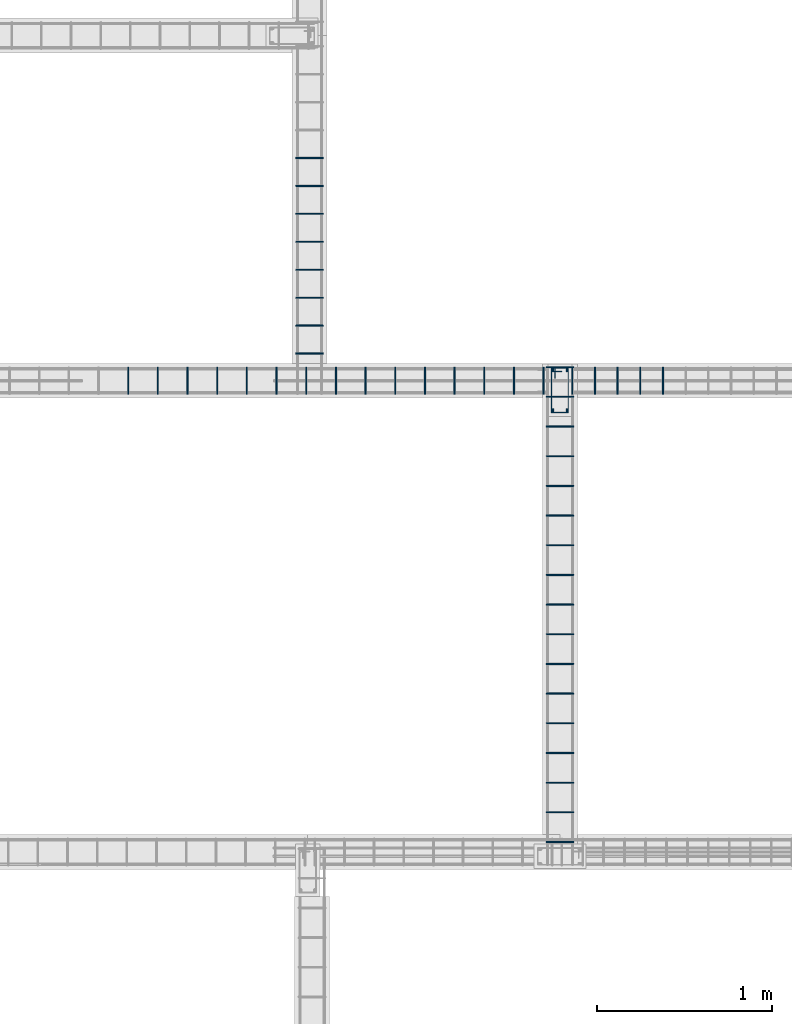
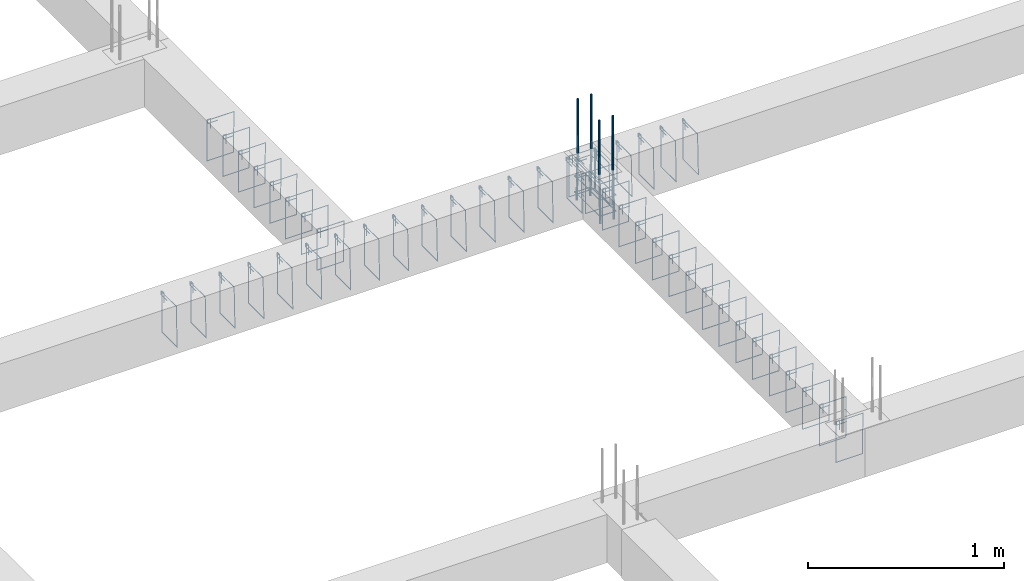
# One storey, part 131 of 150: 52 reinforcing bars.
"""IFC4 building model written with IfcOpenShell, lengths in centimetres."""

import ifcopenshell
import ifcopenshell.guid

model = None  # the IFC model being written
_history = None  # IfcOwnerHistory: only IFC2X3 demands one
_inside = {}  # id of a spatial element -> (the spatial element, [elements in it])
_under = {}  # id of a project, library or spatial element -> (it, [spatial elements below it])
_declared = {}  # id of a project -> (the project, [libraries it declares])
_typed = {}  # id of a type object -> (the type object, [elements of that type])
_made_of = {}  # id of a material, layer set ... -> (it, [elements and type objects made of it])


def new_model(schema):
    """Start an empty IFC model of exactly this schema.

    Asked for "IFC4X3", IfcOpenShell would pick the latest addendum, in which some entities
    have other attributes; the version numbers below select the first issue.
    IFC2X3 requires an IfcOwnerHistory on every rooted entity: one is made here for all.
    """
    global model, _history
    if schema == "IFC4X3":
        model = ifcopenshell.file(schema_version=(4, 3, 0, 0))
    else:
        model = ifcopenshell.file(schema=schema)
    _inside.clear()
    _under.clear()
    _declared.clear()
    _typed.clear()
    _made_of.clear()
    _history = None
    if model.schema == "IFC2X3":
        org = make("IfcOrganization", Name="unknown")
        user = make(
            "IfcPersonAndOrganization",
            ThePerson=make("IfcPerson", FamilyName="unknown"),
            TheOrganization=org,
        )
        app = make(
            "IfcApplication",
            ApplicationDeveloper=org,
            Version="unknown",
            ApplicationFullName="unknown",
            ApplicationIdentifier="unknown",
        )
        _history = make(
            "IfcOwnerHistory",
            OwningUser=user,
            OwningApplication=app,
            ChangeAction="ADDED",
            CreationDate=0,
        )
    return model


def make(cls, **values):
    """One entity of the class cls with the attributes given. An attribute that is None is left unset."""
    return model.create_entity(
        cls, **{name: value for name, value in values.items() if value is not None}
    )


def entity(cls, *values):
    """Any entity or typed value of the class cls, its attributes in the order of the schema. None: left unset."""
    e = model.create_entity(cls)
    for i, value in enumerate(values):
        if value is not None:
            e[i] = value
    return e


def rooted(cls, **values):
    """An entity with a GlobalId (a new one), such as an element, a storey or a relation."""
    return make(cls, GlobalId=ifcopenshell.guid.new(), OwnerHistory=_history, **values)


def si_unit(unit_type, name, prefix=None):
    """IfcSIUnit, for example si_unit("LENGTHUNIT", "METRE", prefix="MILLI")."""
    return make("IfcSIUnit", UnitType=unit_type, Prefix=prefix, Name=name)


def derived_unit(unit_type, elements):
    """IfcDerivedUnit: a product of units, each with its exponent."""
    return make(
        "IfcDerivedUnit",
        Elements=[
            make("IfcDerivedUnitElement", Unit=unit, Exponent=power)
            for unit, power in elements
        ],
        UnitType=unit_type,
    )


def assignment(units):
    """IfcUnitAssignment: the units of a project."""
    return None if units is None else make("IfcUnitAssignment", Units=units)


def point(xyz):
    """IfcCartesianPoint."""
    return None if xyz is None else make("IfcCartesianPoint", Coordinates=xyz)


def direction(xyz):
    """IfcDirection."""
    return None if xyz is None else make("IfcDirection", DirectionRatios=xyz)


def frame(location, z_axis=None, x_axis=None):
    """IfcAxis2Placement3D, a coordinate frame: its origin and axes. An axis left out is left unset."""
    return make(
        "IfcAxis2Placement3D",
        Location=point(location),
        Axis=direction(z_axis),
        RefDirection=direction(x_axis),
    )


def origin_with_axes():
    """The frame at (0, 0, 0) with the z axis (0, 0, 1) and the x axis (1, 0, 0) written out."""
    return frame((0.0, 0.0, 0.0), z_axis=(0.0, 0.0, 1.0), x_axis=(1.0, 0.0, 0.0))


def place(relative_to, where):
    """IfcLocalPlacement: puts the frame where relative to a parent placement (None: the world)."""
    return make(
        "IfcLocalPlacement", PlacementRelTo=relative_to, RelativePlacement=where
    )


def context(
    kind, dimensions, precision=None, world=None, true_north=None, identifier=None
):
    """IfcGeometricRepresentationContext, for example the 3D "Model" context."""
    return make(
        "IfcGeometricRepresentationContext",
        ContextIdentifier=identifier,
        ContextType=kind,
        CoordinateSpaceDimension=dimensions,
        Precision=precision,
        WorldCoordinateSystem=world,
        TrueNorth=true_north,
    )


def project(units=None, contexts=None):
    """IfcProject with its units and contexts."""
    return rooted(
        "IfcProject",
        Name="project",
        RepresentationContexts=contexts,
        UnitsInContext=assignment(units),
    )


def spatial(cls, under=None, at=None, **own):
    """A site, building, storey or space (cls), placed at a placement, below another one or the project."""
    s = rooted(cls, ObjectPlacement=at, **own)
    if under is not None:
        _under.setdefault(under.id(), (under, []))[1].append(s)
    return s


def shape(context_of_items, identifier, shape_type, items):
    """IfcShapeRepresentation: the items that make up one representation, for example the "Body"."""
    return make(
        "IfcShapeRepresentation",
        ContextOfItems=context_of_items,
        RepresentationIdentifier=identifier,
        RepresentationType=shape_type,
        Items=items,
    )


def source(mapping_origin, context_of_items, identifier, shape_type, items):
    """IfcRepresentationMap: a shape defined once, which mapped items show again and again."""
    return make(
        "IfcRepresentationMap",
        MappingOrigin=mapping_origin,
        MappedRepresentation=shape(context_of_items, identifier, shape_type, items),
    )


def transform(
    local_origin,
    x_axis=None,
    y_axis=None,
    z_axis=None,
    scale=None,
    scale2=None,
    scale3=None,
    uniform=True,
):
    """IfcCartesianTransformationOperator3D, or its non-uniform kind. x_axis, y_axis, z_axis: its Axis1, 2, 3."""
    if uniform:
        return make(
            "IfcCartesianTransformationOperator3D",
            Axis1=direction(x_axis),
            Axis2=direction(y_axis),
            LocalOrigin=point(local_origin),
            Scale=scale,
            Axis3=direction(z_axis),
        )
    return make(
        "IfcCartesianTransformationOperator3DnonUniform",
        Axis1=direction(x_axis),
        Axis2=direction(y_axis),
        LocalOrigin=point(local_origin),
        Scale=scale,
        Axis3=direction(z_axis),
        Scale2=scale2,
        Scale3=scale3,
    )


def mapped(mapping_source, mapping_target):
    """IfcMappedItem: shows the shape of a source again, moved by a transform."""
    return make(
        "IfcMappedItem", MappingSource=mapping_source, MappingTarget=mapping_target
    )


def made_of(thing, what):
    """Note that an element or type object is made of a material, layer set ...; save() writes the relation."""
    if what is not None:
        _made_of.setdefault(what.id(), (what, []))[1].append(thing)
    return thing


def element(
    cls,
    number,
    at=None,
    inside=None,
    cuts=None,
    type_object=None,
    material=None,
    context=None,
    identifier="Body",
    shape_type=None,
    held_by="IfcProductDefinitionShape",
    body=None,
    shapes=None,
    **own,
):
    """One element of the class cls, such as IfcWall. Its Tag is "e" and its number.

    at: its placement. inside: the storey or other place that contains it. cuts: it is an
    opening in that element (IfcRelVoidsElement). A single representation is given by context,
    identifier, shape_type and body (its items); several are given by shapes. held_by: the class
    of the entity that holds the representations. save() writes the other relations.
    """
    e = rooted(cls, Tag="e%d" % number, ObjectPlacement=at, **own)
    if body is not None:
        shapes = [shape(context, identifier, shape_type, body)]
    if shapes is not None:
        e.Representation = make(held_by, Representations=shapes)
    if inside is not None:
        _inside.setdefault(inside.id(), (inside, []))[1].append(e)
    if cuts is not None:
        rooted(
            "IfcRelVoidsElement", RelatingBuildingElement=cuts, RelatedOpeningElement=e
        )
    if type_object is not None:
        _typed.setdefault(type_object.id(), (type_object, []))[1].append(e)
    return made_of(e, material)


def aggregate(whole, parts):
    """IfcRelAggregates: a whole, such as a stair, and the parts it consists of."""
    return rooted("IfcRelAggregates", RelatingObject=whole, RelatedObjects=parts)


def save(model, path):
    """Write the relations noted so far, then the file.

    IfcRelAggregates (storeys below a building ...), IfcRelContainedInSpatialStructure (elements
    in a storey), IfcRelDefinesByType, IfcRelAssociatesMaterial and IfcRelDeclares: one each for
    every whole, place, type object, material and project.
    """
    for whole, parts in _under.values():
        aggregate(whole, parts)
    for where, things in _inside.values():
        rooted(
            "IfcRelContainedInSpatialStructure",
            RelatedElements=things,
            RelatingStructure=where,
        )
    for kind, things in _typed.values():
        rooted("IfcRelDefinesByType", RelatedObjects=things, RelatingType=kind)
    for what, things in _made_of.values():
        rooted("IfcRelAssociatesMaterial", RelatedObjects=things, RelatingMaterial=what)
    for by, libraries in _declared.values():
        rooted("IfcRelDeclares", RelatingContext=by, RelatedDefinitions=libraries)
    model.write(path)


model = new_model("IFC4")

# Units and contexts
model_context = context("Model", 3, precision=1e-05, world=origin_with_axes(), identifier="Body")
ifc_project = project(units=[si_unit("LENGTHUNIT", "METRE", prefix="CENTI"), si_unit("VOLUMEUNIT", "CUBIC_METRE"), si_unit("AREAUNIT", "SQUARE_METRE"), si_unit("POWERUNIT", "WATT"), si_unit("LUMINOUSFLUXUNIT", "LUMEN"), si_unit("ELECTRICCURRENTUNIT", "AMPERE"), si_unit("PRESSUREUNIT", "PASCAL", prefix="KILO"), si_unit("MASSUNIT", "GRAM", prefix="KILO"), si_unit("PLANEANGLEUNIT", "RADIAN"), derived_unit("VOLUMETRICFLOWRATEUNIT", [(si_unit("LENGTHUNIT", "METRE"), 3), (si_unit("TIMEUNIT", "SECOND"), -1)])], contexts=[model_context])

# Site, building, storey
site_placement = place(None, frame((-4000.0, 0.0, 0.0), z_axis=(0.0, 0.0, 1.0), x_axis=(1.0, 0.0, 0.0)))
site = spatial("IfcSite", under=ifc_project, at=site_placement, Name="PADRÃO")
building_placement = place(site_placement, frame((0.0, 0.0, -14.0)))
building = spatial("IfcBuilding", under=site, at=building_placement, Name="CRECHE PRÉ-ESCOLA TIPO 2")
placement = place(building_placement, origin_with_axes())
storey_placement = place(placement, frame((0.0, 0.0, 30.0), z_axis=(0.0, 0.0, 1.0), x_axis=(1.0, 0.0, 0.0)))
storey = spatial("IfcBuildingStorey", under=building, at=storey_placement, Name="VIGA BALDRAME", CompositionType="ELEMENT", Elevation=16.0)

# Reinforcing bars
shared_shape_1 = source(origin_with_axes(), model_context, "Body", "AdvancedSweptSolid", [
    entity("IfcSweptDiskSolid", entity("IfcCompositeCurve", [entity("IfcCompositeCurveSegment", "CONTINUOUS", True, entity("IfcPolyline", [entity("IfcCartesianPoint", [4.25, 21.75, 0.0]), entity("IfcCartesianPoint", [4.25, 27.75, 0.0])])), entity("IfcCompositeCurveSegment", "CONTINUOUS", True, entity("IfcPolyline", [entity("IfcCartesianPoint", [4.25, 27.75, 0.0]), entity("IfcCartesianPoint", [2.25, 27.75, 0.0])])), entity("IfcCompositeCurveSegment", "CONTINUOUS", True, entity("IfcPolyline", [entity("IfcCartesianPoint", [2.25, 27.75, 0.0]), entity("IfcCartesianPoint", [2.25, 2.25, 0.0])])), entity("IfcCompositeCurveSegment", "CONTINUOUS", True, entity("IfcPolyline", [entity("IfcCartesianPoint", [2.25, 2.25, 0.0]), entity("IfcCartesianPoint", [11.75, 2.25, 0.0])])), entity("IfcCompositeCurveSegment", "CONTINUOUS", True, entity("IfcPolyline", [entity("IfcCartesianPoint", [11.75, 2.25, 0.0]), entity("IfcCartesianPoint", [11.75, 27.75, -0.5])])), entity("IfcCompositeCurveSegment", "CONTINUOUS", True, entity("IfcPolyline", [entity("IfcCartesianPoint", [11.75, 27.75, -0.5]), entity("IfcCartesianPoint", [2.25, 27.75, -0.5])])), entity("IfcCompositeCurveSegment", "CONTINUOUS", True, entity("IfcPolyline", [entity("IfcCartesianPoint", [2.25, 27.75, -0.5]), entity("IfcCartesianPoint", [2.25, 25.75, -0.5])])), entity("IfcCompositeCurveSegment", "CONTINUOUS", True, entity("IfcPolyline", [entity("IfcCartesianPoint", [2.25, 25.75, -0.5]), entity("IfcCartesianPoint", [8.25, 25.75, -0.5])]))], False), 0.25),
])
for number, where, z_axis, x_axis, name in (
    (1, (2661.0, 3449.58, -5.0), (0.0, 0.0, 1.0), (1.0, 0.0, 0.0), "P43 - Estribo"),
    (2, (2661.0, 3449.58, -15.0), (0.0, 0.0, 1.0), (1.0, 0.0, 0.0), "P43 - Estribo"),
    (3, (2661.0, 3449.58, -25.0), (0.0, 0.0, 1.0), (1.0, 0.0, 0.0), "P43 - Estribo"),
):
    element("IfcReinforcingBar", number, at=place(storey_placement, frame(where, z_axis=z_axis, x_axis=x_axis)), inside=storey, Name=name, BarLength=0.0, CrossSectionArea=1.9634954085e-05, NominalDiameter=0.5, PredefinedType="MAIN", context=model_context, shape_type="MappedRepresentation", body=[
        mapped(shared_shape_1, transform((0.0, 0.0, 0.0), scale=1.0)),
    ])
shared_shape_2 = source(origin_with_axes(), model_context, "Body", "AdvancedSweptSolid", [
    entity("IfcSweptDiskSolid", entity("IfcCompositeCurve", [entity("IfcCompositeCurveSegment", "CONTINUOUS", True, entity("IfcPolyline", [entity("IfcCartesianPoint", [2.0, -6.0, 0.0]), entity("IfcCartesianPoint", [2.0, 0.0, 0.0])])), entity("IfcCompositeCurveSegment", "CONTINUOUS", True, entity("IfcPolyline", [entity("IfcCartesianPoint", [2.0, 0.0, 0.0]), entity("IfcCartesianPoint", [0.0, 0.0, 0.0])])), entity("IfcCompositeCurveSegment", "CONTINUOUS", True, entity("IfcPolyline", [entity("IfcCartesianPoint", [0.0, 0.0, 0.0]), entity("IfcCartesianPoint", [0.0, -25.5, 0.0])])), entity("IfcCompositeCurveSegment", "CONTINUOUS", True, entity("IfcPolyline", [entity("IfcCartesianPoint", [0.0, -25.5, 0.0]), entity("IfcCartesianPoint", [15.5, -25.5, 0.0])])), entity("IfcCompositeCurveSegment", "CONTINUOUS", True, entity("IfcPolyline", [entity("IfcCartesianPoint", [15.5, -25.5, 0.0]), entity("IfcCartesianPoint", [15.5, 0.0, 0.5])])), entity("IfcCompositeCurveSegment", "CONTINUOUS", True, entity("IfcPolyline", [entity("IfcCartesianPoint", [15.5, 0.0, 0.5]), entity("IfcCartesianPoint", [0.0, 0.0, 0.5])])), entity("IfcCompositeCurveSegment", "CONTINUOUS", True, entity("IfcPolyline", [entity("IfcCartesianPoint", [0.0, 0.0, 0.5]), entity("IfcCartesianPoint", [0.0, -2.0, 0.5])])), entity("IfcCompositeCurveSegment", "CONTINUOUS", True, entity("IfcPolyline", [entity("IfcCartesianPoint", [0.0, -2.0, 0.5]), entity("IfcCartesianPoint", [6.0, -2.0, 0.5])]))], False), 0.25),
])
for number, where, z_axis, x_axis, name in (
    (4, (2420.88, 3477.77, -2.25), (-1.0, 0.0, 0.0), (0.0, -1.0, 0.0), "V111 - Estribo"),
    (5, (2437.88, 3477.77, -2.25), (-1.0, 0.0, 0.0), (0.0, -1.0, 0.0), "V111 - Estribo"),
    (6, (2454.88, 3477.77, -2.25), (-1.0, 0.0, 0.0), (0.0, -1.0, 0.0), "V111 - Estribo"),
    (7, (2471.88, 3477.77, -2.25), (-1.0, 0.0, 0.0), (0.0, -1.0, 0.0), "V111 - Estribo"),
    (8, (2488.88, 3477.77, -2.25), (-1.0, 0.0, 0.0), (0.0, -1.0, 0.0), "V111 - Estribo"),
    (9, (2505.88, 3477.77, -2.25), (-1.0, 0.0, 0.0), (0.0, -1.0, 0.0), "V111 - Estribo"),
    (10, (2522.88, 3477.77, -2.25), (-1.0, 0.0, 0.0), (0.0, -1.0, 0.0), "V111 - Estribo"),
    (11, (2539.88, 3477.77, -2.25), (-1.0, 0.0, 0.0), (0.0, -1.0, 0.0), "V111 - Estribo"),
    (12, (2556.88, 3477.77, -2.25), (-1.0, 0.0, 0.0), (0.0, -1.0, 0.0), "V111 - Estribo"),
    (13, (2573.88, 3477.77, -2.25), (-1.0, 0.0, 0.0), (0.0, -1.0, 0.0), "V111 - Estribo"),
    (14, (2590.88, 3477.77, -2.25), (-1.0, 0.0, 0.0), (0.0, -1.0, 0.0), "V111 - Estribo"),
    (15, (2607.88, 3477.77, -2.25), (-1.0, 0.0, 0.0), (0.0, -1.0, 0.0), "V111 - Estribo"),
    (16, (2624.88, 3477.77, -2.25), (-1.0, 0.0, 0.0), (0.0, -1.0, 0.0), "V111 - Estribo"),
    (17, (2641.88, 3477.77, -2.25), (-1.0, 0.0, 0.0), (0.0, -1.0, 0.0), "V111 - Estribo"),
    (18, (2658.88, 3477.77, -2.25), (-1.0, 0.0, 0.0), (0.0, -1.0, 0.0), "V111 - Estribo"),
):
    element("IfcReinforcingBar", number, at=place(storey_placement, frame(where, z_axis=z_axis, x_axis=x_axis)), inside=storey, Name=name, BarLength=0.0, CrossSectionArea=1.9634954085e-05, NominalDiameter=0.5, PredefinedType="MAIN", context=model_context, shape_type="MappedRepresentation", body=[
        mapped(shared_shape_2, transform((0.0, 0.0, 0.0), scale=1.0)),
    ])
shared_shape_3 = source(origin_with_axes(), model_context, "Body", "AdvancedSweptSolid", [
    entity("IfcSweptDiskSolid", entity("IfcCompositeCurve", [entity("IfcCompositeCurveSegment", "CONTINUOUS", True, entity("IfcPolyline", [entity("IfcCartesianPoint", [2.0, -6.0, 0.0]), entity("IfcCartesianPoint", [2.0, 0.0, 0.0])])), entity("IfcCompositeCurveSegment", "CONTINUOUS", True, entity("IfcPolyline", [entity("IfcCartesianPoint", [2.0, 0.0, 0.0]), entity("IfcCartesianPoint", [0.0, 0.0, 0.0])])), entity("IfcCompositeCurveSegment", "CONTINUOUS", True, entity("IfcPolyline", [entity("IfcCartesianPoint", [0.0, 0.0, 0.0]), entity("IfcCartesianPoint", [0.0, -25.5, 0.0])])), entity("IfcCompositeCurveSegment", "CONTINUOUS", True, entity("IfcPolyline", [entity("IfcCartesianPoint", [0.0, -25.5, 0.0]), entity("IfcCartesianPoint", [15.5, -25.5, 0.0])])), entity("IfcCompositeCurveSegment", "CONTINUOUS", True, entity("IfcPolyline", [entity("IfcCartesianPoint", [15.5, -25.5, 0.0]), entity("IfcCartesianPoint", [15.5, 0.0, 0.5])])), entity("IfcCompositeCurveSegment", "CONTINUOUS", True, entity("IfcPolyline", [entity("IfcCartesianPoint", [15.5, 0.0, 0.5]), entity("IfcCartesianPoint", [0.0, 0.0, 0.5])])), entity("IfcCompositeCurveSegment", "CONTINUOUS", True, entity("IfcPolyline", [entity("IfcCartesianPoint", [0.0, 0.0, 0.5]), entity("IfcCartesianPoint", [0.0, -2.0, 0.5])])), entity("IfcCompositeCurveSegment", "CONTINUOUS", True, entity("IfcPolyline", [entity("IfcCartesianPoint", [0.0, -2.0, 0.5]), entity("IfcCartesianPoint", [6.0, -2.0, 0.5])]))], False), 0.25),
])
for number, where, z_axis, x_axis, name in (
    (19, (2675.25016168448, 3477.76999480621, -2.25), (-1.0, 2.0768434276e-05, 0.0), (-2.0768434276e-05, -1.0, 0.0), "V111 - Estribo"),
    (20, (2688.25016168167, 3477.76972481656, -2.25), (-1.0, 2.0768434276e-05, 0.0), (-2.0768434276e-05, -1.0, 0.0), "V111 - Estribo"),
    (21, (2701.25016167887, 3477.76945482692, -2.25), (-1.0, 2.0768434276e-05, 0.0), (-2.0768434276e-05, -1.0, 0.0), "V111 - Estribo"),
    (22, (2714.25016167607, 3477.76918483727, -2.25), (-1.0, 2.0768434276e-05, 0.0), (-2.0768434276e-05, -1.0, 0.0), "V111 - Estribo"),
    (23, (2727.25016167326, 3477.76891484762, -2.25), (-1.0, 2.0768434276e-05, 0.0), (-2.0768434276e-05, -1.0, 0.0), "V111 - Estribo"),
):
    element("IfcReinforcingBar", number, at=place(storey_placement, frame(where, z_axis=z_axis, x_axis=x_axis)), inside=storey, Name=name, BarLength=0.0, CrossSectionArea=1.9634954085e-05, NominalDiameter=0.5, PredefinedType="MAIN", context=model_context, shape_type="MappedRepresentation", body=[
        mapped(shared_shape_3, transform((0.0, 0.0, 0.0), scale=1.0)),
    ])
shared_shape_4 = source(origin_with_axes(), model_context, "Body", "AdvancedSweptSolid", [
    entity("IfcSweptDiskSolid", entity("IfcCompositeCurve", [entity("IfcCompositeCurveSegment", "CONTINUOUS", True, entity("IfcPolyline", [entity("IfcCartesianPoint", [2.0, -6.0, 0.0]), entity("IfcCartesianPoint", [2.0, 0.0, 0.0])])), entity("IfcCompositeCurveSegment", "CONTINUOUS", True, entity("IfcPolyline", [entity("IfcCartesianPoint", [2.0, 0.0, 0.0]), entity("IfcCartesianPoint", [0.0, 0.0, 0.0])])), entity("IfcCompositeCurveSegment", "CONTINUOUS", True, entity("IfcPolyline", [entity("IfcCartesianPoint", [0.0, 0.0, 0.0]), entity("IfcCartesianPoint", [0.0, -25.5, 0.0])])), entity("IfcCompositeCurveSegment", "CONTINUOUS", True, entity("IfcPolyline", [entity("IfcCartesianPoint", [0.0, -25.5, 0.0]), entity("IfcCartesianPoint", [15.5, -25.5, 0.0])])), entity("IfcCompositeCurveSegment", "CONTINUOUS", True, entity("IfcPolyline", [entity("IfcCartesianPoint", [15.5, -25.5, 0.0]), entity("IfcCartesianPoint", [15.5, 0.0, 0.5])])), entity("IfcCompositeCurveSegment", "CONTINUOUS", True, entity("IfcPolyline", [entity("IfcCartesianPoint", [15.5, 0.0, 0.5]), entity("IfcCartesianPoint", [0.0, 0.0, 0.5])])), entity("IfcCompositeCurveSegment", "CONTINUOUS", True, entity("IfcPolyline", [entity("IfcCartesianPoint", [0.0, 0.0, 0.5]), entity("IfcCartesianPoint", [0.0, -2.0, 0.5])])), entity("IfcCompositeCurveSegment", "CONTINUOUS", True, entity("IfcPolyline", [entity("IfcCartesianPoint", [0.0, -2.0, 0.5]), entity("IfcCartesianPoint", [6.0, -2.0, 0.5])]))], False), 0.25),
])
for number, where, z_axis, x_axis, name in (
    (24, (2516.78, 3597.885, -2.25), (0.0, -1.0, 0.0), (1.0, 0.0, 0.0), "V199 - Estribo"),
    (25, (2516.78, 3581.885, -2.25), (0.0, -1.0, 0.0), (1.0, 0.0, 0.0), "V199 - Estribo"),
    (26, (2516.78, 3565.885, -2.25), (0.0, -1.0, 0.0), (1.0, 0.0, 0.0), "V199 - Estribo"),
    (27, (2516.78, 3549.885, -2.25), (0.0, -1.0, 0.0), (1.0, 0.0, 0.0), "V199 - Estribo"),
    (28, (2516.78, 3533.885, -2.25), (0.0, -1.0, 0.0), (1.0, 0.0, 0.0), "V199 - Estribo"),
    (29, (2516.78, 3517.885, -2.25), (0.0, -1.0, 0.0), (1.0, 0.0, 0.0), "V199 - Estribo"),
    (30, (2516.78, 3501.885, -2.25), (0.0, -1.0, 0.0), (1.0, 0.0, 0.0), "V199 - Estribo"),
    (31, (2516.78, 3485.885, -2.25), (0.0, -1.0, 0.0), (1.0, 0.0, 0.0), "V199 - Estribo"),
):
    element("IfcReinforcingBar", number, at=place(storey_placement, frame(where, z_axis=z_axis, x_axis=x_axis)), inside=storey, Name=name, BarLength=0.0, CrossSectionArea=1.9634954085e-05, NominalDiameter=0.5, PredefinedType="MAIN", context=model_context, shape_type="MappedRepresentation", body=[
        mapped(shared_shape_4, transform((0.0, 0.0, 0.0), scale=1.0)),
    ])
shared_shape_5 = source(origin_with_axes(), model_context, "Body", "AdvancedSweptSolid", [
    entity("IfcSweptDiskSolid", entity("IfcCompositeCurve", [entity("IfcCompositeCurveSegment", "CONTINUOUS", True, entity("IfcPolyline", [entity("IfcCartesianPoint", [2.0, -6.0, 0.0]), entity("IfcCartesianPoint", [2.0, 0.0, 0.0])])), entity("IfcCompositeCurveSegment", "CONTINUOUS", True, entity("IfcPolyline", [entity("IfcCartesianPoint", [2.0, 0.0, 0.0]), entity("IfcCartesianPoint", [0.0, 0.0, 0.0])])), entity("IfcCompositeCurveSegment", "CONTINUOUS", True, entity("IfcPolyline", [entity("IfcCartesianPoint", [0.0, 0.0, 0.0]), entity("IfcCartesianPoint", [0.0, -25.5, 0.0])])), entity("IfcCompositeCurveSegment", "CONTINUOUS", True, entity("IfcPolyline", [entity("IfcCartesianPoint", [0.0, -25.5, 0.0]), entity("IfcCartesianPoint", [15.5, -25.5, 0.0])])), entity("IfcCompositeCurveSegment", "CONTINUOUS", True, entity("IfcPolyline", [entity("IfcCartesianPoint", [15.5, -25.5, 0.0]), entity("IfcCartesianPoint", [15.5, 0.0, 0.5])])), entity("IfcCompositeCurveSegment", "CONTINUOUS", True, entity("IfcPolyline", [entity("IfcCartesianPoint", [15.5, 0.0, 0.5]), entity("IfcCartesianPoint", [0.0, 0.0, 0.5])])), entity("IfcCompositeCurveSegment", "CONTINUOUS", True, entity("IfcPolyline", [entity("IfcCartesianPoint", [0.0, 0.0, 0.5]), entity("IfcCartesianPoint", [0.0, -2.0, 0.5])])), entity("IfcCompositeCurveSegment", "CONTINUOUS", True, entity("IfcPolyline", [entity("IfcCartesianPoint", [0.0, -2.0, 0.5]), entity("IfcCartesianPoint", [6.0, -2.0, 0.5])]))], False), 0.25),
])
for number, where, z_axis, x_axis, name in (
    (32, (2660.25, 3206.05, -2.25), (0.0, -1.0, 0.0), (1.0, 0.0, 0.0), "V202 - Estribo"),
    (33, (2660.25, 3342.05, -2.25), (0.0, -1.0, 0.0), (1.0, 0.0, 0.0), "V202 - Estribo"),
    (34, (2660.25, 3325.05, -2.25), (0.0, -1.0, 0.0), (1.0, 0.0, 0.0), "V202 - Estribo"),
    (35, (2660.25, 3308.05, -2.25), (0.0, -1.0, 0.0), (1.0, 0.0, 0.0), "V202 - Estribo"),
    (36, (2660.25, 3291.05, -2.25), (0.0, -1.0, 0.0), (1.0, 0.0, 0.0), "V202 - Estribo"),
    (37, (2660.25, 3223.05, -2.25), (0.0, -1.0, 0.0), (1.0, 0.0, 0.0), "V202 - Estribo"),
    (38, (2660.25, 3240.05, -2.25), (0.0, -1.0, 0.0), (1.0, 0.0, 0.0), "V202 - Estribo"),
    (39, (2660.25, 3257.05, -2.25), (0.0, -1.0, 0.0), (1.0, 0.0, 0.0), "V202 - Estribo"),
    (40, (2660.25, 3274.05, -2.25), (0.0, -1.0, 0.0), (1.0, 0.0, 0.0), "V202 - Estribo"),
    (41, (2660.25, 3393.05, -2.25), (0.0, -1.0, 0.0), (1.0, 0.0, 0.0), "V202 - Estribo"),
    (42, (2660.25, 3376.05, -2.25), (0.0, -1.0, 0.0), (1.0, 0.0, 0.0), "V202 - Estribo"),
    (43, (2660.25, 3359.05, -2.25), (0.0, -1.0, 0.0), (1.0, 0.0, 0.0), "V202 - Estribo"),
    (44, (2660.25, 3410.05, -2.25), (0.0, -1.0, 0.0), (1.0, 0.0, 0.0), "V202 - Estribo"),
    (45, (2660.25, 3427.05, -2.25), (0.0, -1.0, 0.0), (1.0, 0.0, 0.0), "V202 - Estribo"),
    (46, (2660.25, 3444.05, -2.25), (0.0, -1.0, 0.0), (1.0, 0.0, 0.0), "V202 - Estribo"),
    (47, (2660.25, 3461.05, -2.25), (0.0, -1.0, 0.0), (1.0, 0.0, 0.0), "V202 - Estribo"),
    (48, (2660.25, 3478.05, -2.25), (0.0, -1.0, 0.0), (1.0, 0.0, 0.0), "V202 - Estribo"),
):
    element("IfcReinforcingBar", number, at=place(storey_placement, frame(where, z_axis=z_axis, x_axis=x_axis)), inside=storey, Name=name, BarLength=0.0, CrossSectionArea=1.9634954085e-05, NominalDiameter=0.5, PredefinedType="MAIN", context=model_context, shape_type="MappedRepresentation", body=[
        mapped(shared_shape_5, transform((0.0, 0.0, 0.0), scale=1.0)),
    ])
reinforcing_bar_1_placement = place(storey_placement, frame((2664.0, 3453.08013877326, 33.3573001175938), z_axis=(0.0, 0.0, 1.0), x_axis=(1.0, 0.0, 0.0)))
element("IfcReinforcingBar", 49, at=reinforcing_bar_1_placement, inside=storey, Name="P43 - Longitudinal", BarLength=0.0, CrossSectionArea=7.853981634e-05, NominalDiameter=1.0, PredefinedType="MAIN", context=model_context, shape_type="AdvancedSweptSolid", body=[
    entity("IfcSweptDiskSolid", entity("IfcCompositeCurve", [entity("IfcCompositeCurveSegment", "CONTINUOUS", True, entity("IfcPolyline", [entity("IfcCartesianPoint", [0.0, -0.500138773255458, -63.3573001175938]), entity("IfcCartesianPoint", [0.0, 0.499861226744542, -33.3573001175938])])), entity("IfcCompositeCurveSegment", "CONTINUOUS", True, entity("IfcPolyline", [entity("IfcCartesianPoint", [0.0, 0.499861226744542, -33.3573001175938]), entity("IfcCartesianPoint", [0.0, 0.499861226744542, 0.0])]))], False), 0.5),
])
reinforcing_bar_2_placement = place(storey_placement, frame((2672.0, 3476.07986122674, 33.3573001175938), z_axis=(0.0, 0.0, 1.0), x_axis=(1.0, 0.0, 0.0)))
element("IfcReinforcingBar", 50, at=reinforcing_bar_2_placement, inside=storey, Name="P43 - Longitudinal", BarLength=0.0, CrossSectionArea=7.853981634e-05, NominalDiameter=1.0, PredefinedType="MAIN", context=model_context, shape_type="AdvancedSweptSolid", body=[
    entity("IfcSweptDiskSolid", entity("IfcCompositeCurve", [entity("IfcCompositeCurveSegment", "CONTINUOUS", True, entity("IfcPolyline", [entity("IfcCartesianPoint", [0.0, 0.500138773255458, -63.3573001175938]), entity("IfcCartesianPoint", [0.0, -0.499861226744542, -33.3573001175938])])), entity("IfcCompositeCurveSegment", "CONTINUOUS", True, entity("IfcPolyline", [entity("IfcCartesianPoint", [0.0, -0.499861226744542, -33.3573001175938]), entity("IfcCartesianPoint", [0.0, -0.499861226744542, 0.0])]))], False), 0.5),
])
reinforcing_bar_3_placement = place(storey_placement, frame((2672.0, 3453.08013877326, 33.3573001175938), z_axis=(0.0, 0.0, 1.0), x_axis=(1.0, 0.0, 0.0)))
element("IfcReinforcingBar", 51, at=reinforcing_bar_3_placement, inside=storey, Name="P43 - Longitudinal", BarLength=0.0, CrossSectionArea=7.853981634e-05, NominalDiameter=1.0, PredefinedType="MAIN", context=model_context, shape_type="AdvancedSweptSolid", body=[
    entity("IfcSweptDiskSolid", entity("IfcCompositeCurve", [entity("IfcCompositeCurveSegment", "CONTINUOUS", True, entity("IfcPolyline", [entity("IfcCartesianPoint", [0.0, -0.500138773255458, -63.3573001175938]), entity("IfcCartesianPoint", [0.0, 0.499861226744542, -33.3573001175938])])), entity("IfcCompositeCurveSegment", "CONTINUOUS", True, entity("IfcPolyline", [entity("IfcCartesianPoint", [0.0, 0.499861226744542, -33.3573001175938]), entity("IfcCartesianPoint", [0.0, 0.499861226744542, 0.0])]))], False), 0.5),
])
reinforcing_bar_4_placement = place(storey_placement, frame((2664.0, 3476.07986122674, 33.3573001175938), z_axis=(0.0, 0.0, 1.0), x_axis=(1.0, 0.0, 0.0)))
element("IfcReinforcingBar", 52, at=reinforcing_bar_4_placement, inside=storey, Name="P43 - Longitudinal", BarLength=0.0, CrossSectionArea=7.853981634e-05, NominalDiameter=1.0, PredefinedType="MAIN", context=model_context, shape_type="AdvancedSweptSolid", body=[
    entity("IfcSweptDiskSolid", entity("IfcCompositeCurve", [entity("IfcCompositeCurveSegment", "CONTINUOUS", True, entity("IfcPolyline", [entity("IfcCartesianPoint", [0.0, 0.500138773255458, -63.3573001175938]), entity("IfcCartesianPoint", [0.0, -0.499861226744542, -33.3573001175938])])), entity("IfcCompositeCurveSegment", "CONTINUOUS", True, entity("IfcPolyline", [entity("IfcCartesianPoint", [0.0, -0.499861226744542, -33.3573001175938]), entity("IfcCartesianPoint", [0.0, -0.499861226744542, 0.0])]))], False), 0.5),
])

save(model, "model.ifc")
